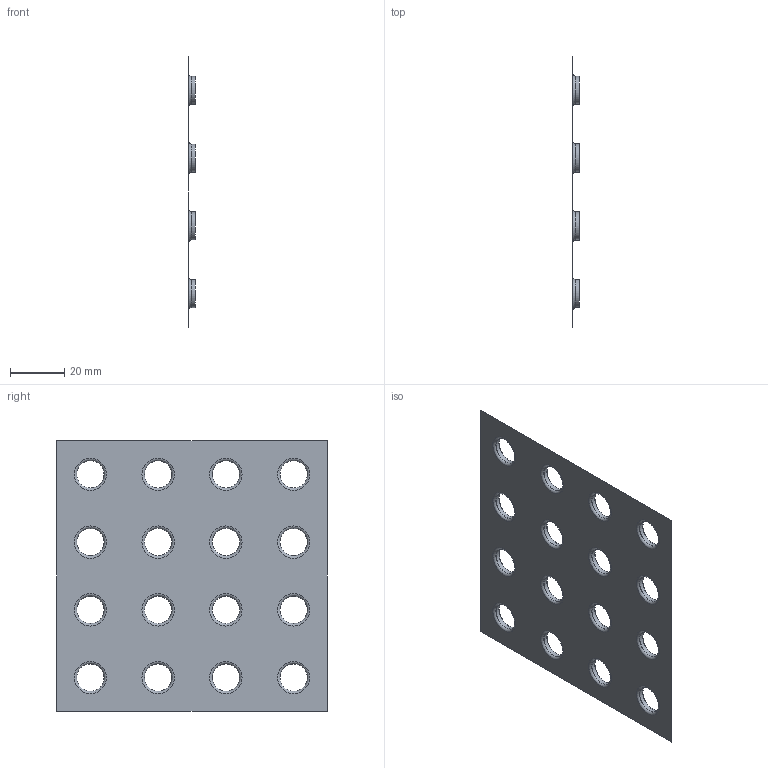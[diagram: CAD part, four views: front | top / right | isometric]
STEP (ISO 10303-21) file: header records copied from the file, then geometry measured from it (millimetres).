
FILE_DESCRIPTION( ( 'Unknown' ), '1' );
FILE_NAME( '//SERVER2K3/Dati/Documenti/TEC/SolidEdge/solidedge/Template/Pacchi Alettati/Geometrie formato STEP/Pacco Standard 25x25.stp', 'Unknown', ( 'Unknown' ), ( 'Unknown' ), 'PSStep 15.0.49', 'Unknown', ' ' );
FILE_SCHEMA( ( 'AUTOMOTIVE_DESIGN { 1 0 10303 214 1 1 1 1 }' ) );
Length unit declared in the file: millimetre
Products named in the file (1): 1
Bounding box: 2.5 x 100 x 100 mm (x, y, z)
Volume: 1073.8 mm3; surface area: 19623.2 mm2
Topology: 1 solids, 1 shells, 86 faces, 204 edges, 136 vertices
Faces by surface type: cylinder 32, torus 32, plane 22
Full cylindrical faces by diameter (mm): 10.1 x16, 10.32 x16
Entity records: 2684 total; most frequent: DIRECTION 378, CARTESIAN_POINT 299, ORIENTED_EDGE 216, EDGE_LOOP 198, AXIS2_PLACEMENT_3D 183, FACE_OUTER_BOUND 150, EDGE_CURVE 108, VERTEX_POINT 104
